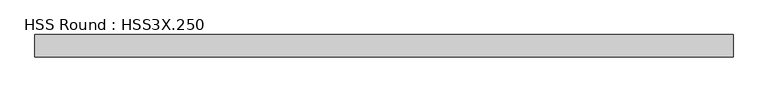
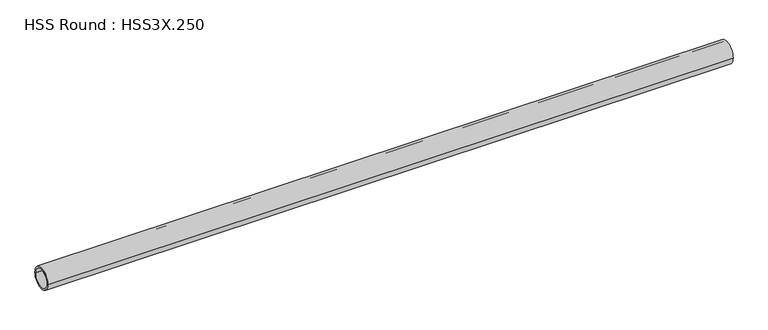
"""IFC4 building model written with IfcOpenShell, lengths in millimetres: member geometry, HSS Round : HSS3X.250."""

from ifc_helpers import new_model, si_unit, point, frame, origin, origin_2d, place, context, project, spatial, circle_curve, trimmed, segment, composite_curve, outline, extrude, source, transform, mapped, element, save


def hss_round_hss3x_250_0a7b9d6e(model_context):
    return source(origin(), model_context, "Body", "SweptSolid", [
        extrude(outline(composite_curve([segment(trimmed(circle_curve(origin_2d(), 38.1), [point((-38.1, 0.0))], [point((38.1, 0.0))], False, "CARTESIAN"), True, "CONTINUOUS"), segment(trimmed(circle_curve(origin_2d(), 38.1), [point((38.1, 0.0))], [point((-38.1, 0.0))], False, "CARTESIAN"), True, "CONTINUOUS")], self_intersect=False), holes=[composite_curve([segment(trimmed(circle_curve(origin_2d(), 31.75), [point((31.75, 0.0))], [point((-31.75, 0.0))], True, "CARTESIAN"), True, "CONTINUOUS"), segment(trimmed(circle_curve(origin_2d(), 31.75), [point((-31.75, 0.0))], [point((31.75, 0.0))], True, "CARTESIAN"), True, "CONTINUOUS")], self_intersect=False)]), frame((-1150.6418951, 0.0, 0.0), z_axis=(1.0, 0.0, 0.0), x_axis=(0.0, 1.0, 0.0)), (0.0, 0.0, 1.0), 2357.4677617),
    ])


if __name__ == "__main__":
    model = new_model("IFC4")
    model_context = context("Model", 3, world=origin())
    ifc_project = project(units=[si_unit("LENGTHUNIT", "METRE", prefix="MILLI")], contexts=[model_context])
    site = spatial("IfcSite", under=ifc_project)
    building = spatial("IfcBuilding", under=site)
    placement = place(None, origin())
    hss_round_hss3x_250_shape = hss_round_hss3x_250_0a7b9d6e(model_context)
    element("IfcMember", 1, ObjectType="HSS Round : HSS3X.250", at=placement, inside=building, context=model_context, shape_type="MappedRepresentation", body=[
        mapped(hss_round_hss3x_250_shape, transform((0.0, 0.0, 0.0), x_axis=(1.0, 0.0, 0.0), y_axis=(0.0, 1.0, 0.0), z_axis=(0.0, 0.0, 1.0))),
    ])
    save(model, "model.ifc")
